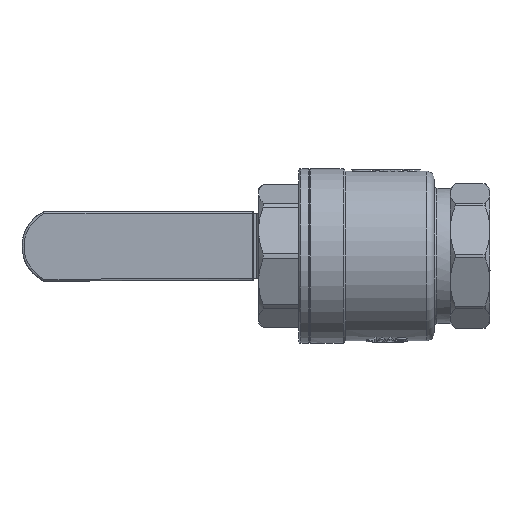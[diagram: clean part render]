
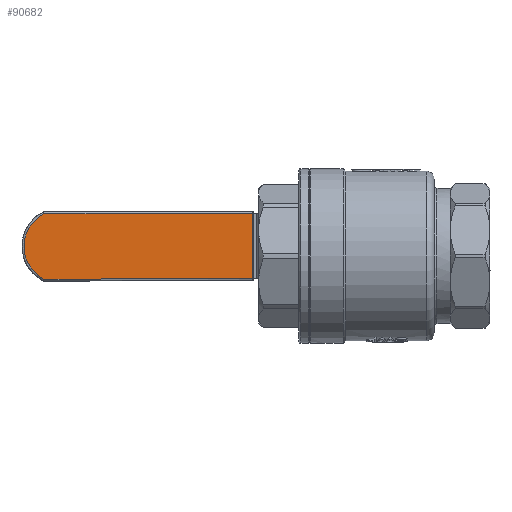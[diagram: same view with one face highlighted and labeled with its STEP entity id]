
A CAD part, front view. The second image highlights one B-rep face of the part: STEP entity #90682.
In plain terms, the highlighted planar face has unit normal (0, -1, 0).
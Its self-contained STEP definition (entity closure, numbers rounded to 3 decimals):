
#3552 = EDGE_CURVE ( 'NONE', #99293, #126361, #7506, .T. ) ;
#7506 = CIRCLE ( 'NONE', #114109, 18.5 ) ;
#8567 = ORIENTED_EDGE ( 'NONE', *, *, #117598, .T. ) ;
#15598 = VECTOR ( 'NONE', #90601, 1000. ) ;
#18277 = CARTESIAN_POINT ( 'NONE',  ( -115.128, -5., 16.45 ) ) ;
#28510 = ORIENTED_EDGE ( 'NONE', *, *, #3552, .T. ) ;
#29809 = EDGE_LOOP ( 'NONE', ( #8567, #86142, #114545, #28510 ) ) ;
#34171 = EDGE_CURVE ( 'NONE', #63422, #93293, #43183, .T. ) ;
#35251 = CARTESIAN_POINT ( 'NONE',  ( -10.036, -5., 16.45 ) ) ;
#37559 = PLANE ( 'NONE',  #57577 ) ;
#43183 = LINE ( 'NONE', #18277, #15598 ) ;
#45876 = LINE ( 'NONE', #55256, #55601 ) ;
#47025 = CARTESIAN_POINT ( 'NONE',  ( -115.628, -5., 16.45 ) ) ;
#50228 = DIRECTION ( 'NONE',  ( -1., 0., 0. ) ) ;
#55256 = CARTESIAN_POINT ( 'NONE',  ( -115.628, -5., -16.45 ) ) ;
#55601 = VECTOR ( 'NONE', #105853, 1000. ) ;
#57304 = VECTOR ( 'NONE', #50228, 1000. ) ;
#57577 = AXIS2_PLACEMENT_3D ( 'NONE', #47025, #118469, #98059 ) ;
#63422 = VERTEX_POINT ( 'NONE', #69035 ) ;
#69035 = CARTESIAN_POINT ( 'NONE',  ( -115.128, -5., 16.45 ) ) ;
#73489 = EDGE_CURVE ( 'NONE', #93293, #99293, #45876, .T. ) ;
#84383 = CARTESIAN_POINT ( 'NONE',  ( -10.036, -5., -16.45 ) ) ;
#86142 = ORIENTED_EDGE ( 'NONE', *, *, #34171, .T. ) ;
#86672 = CARTESIAN_POINT ( 'NONE',  ( -18.5, -5., 0. ) ) ;
#90601 = DIRECTION ( 'NONE',  ( 0., 0., -1. ) ) ;
#90682 = ADVANCED_FACE ( 'NONE', ( #100967 ), #37559, .F. ) ;
#93293 = VERTEX_POINT ( 'NONE', #133997 ) ;
#97983 = DIRECTION ( 'NONE',  ( 0., -1., 0. ) ) ;
#98059 = DIRECTION ( 'NONE',  ( 0., 0., 1. ) ) ;
#99293 = VERTEX_POINT ( 'NONE', #84383 ) ;
#100967 = FACE_OUTER_BOUND ( 'NONE', #29809, .T. ) ;
#105853 = DIRECTION ( 'NONE',  ( 1., 0., 0. ) ) ;
#110761 = LINE ( 'NONE', #120789, #57304 ) ;
#114109 = AXIS2_PLACEMENT_3D ( 'NONE', #86672, #97983, #123588 ) ;
#114545 = ORIENTED_EDGE ( 'NONE', *, *, #73489, .T. ) ;
#117598 = EDGE_CURVE ( 'NONE', #126361, #63422, #110761, .T. ) ;
#118469 = DIRECTION ( 'NONE',  ( 0., 1., 0. ) ) ;
#120789 = CARTESIAN_POINT ( 'NONE',  ( -115.628, -5., 16.45 ) ) ;
#123588 = DIRECTION ( 'NONE',  ( 0., 0., 1. ) ) ;
#126361 = VERTEX_POINT ( 'NONE', #35251 ) ;
#133997 = CARTESIAN_POINT ( 'NONE',  ( -115.128, -5., -16.45 ) ) ;
